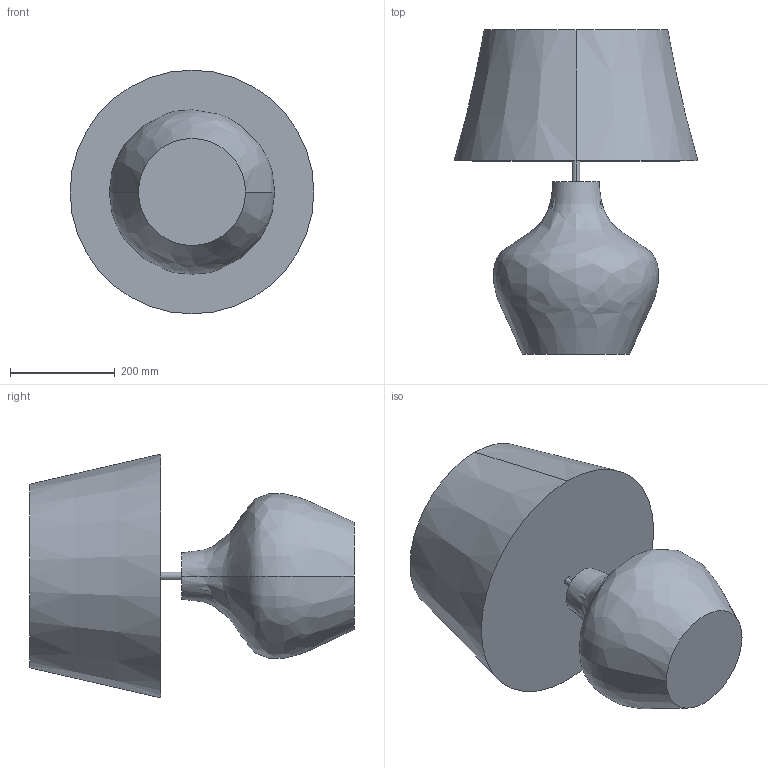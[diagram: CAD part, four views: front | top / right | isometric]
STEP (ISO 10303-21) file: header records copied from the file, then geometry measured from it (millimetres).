
FILE_DESCRIPTION (( 'STEP AP214' ), '1' );
FILE_NAME ('06_ory.STEP', '2016-10-07T08:29:25', ( 'Tripiodiy' ), ( '' ), 'SwSTEP 2.0', 'SolidWorks 2016', '' );
FILE_SCHEMA (( 'AUTOMOTIVE_DESIGN' ));
Length unit declared in the file: millimetre
Products named in the file (1): 06_ory
Bounding box: 465 x 618.84 x 465 mm (x, y, z)
Volume: 2386789.9 mm3; surface area: 1594430.3 mm2
Topology: 1 solids, 1 shells, 20 faces, 38 edges, 24 vertices
Faces by surface type: cone 6, plane 6, bspline 4, cylinder 4
Entity records: 1196 total; most frequent: CARTESIAN_POINT 755, DIRECTION 92, ORIENTED_EDGE 76, AXIS2_PLACEMENT_3D 41, EDGE_CURVE 38, CIRCLE 24, VERTEX_POINT 24, EDGE_LOOP 24
